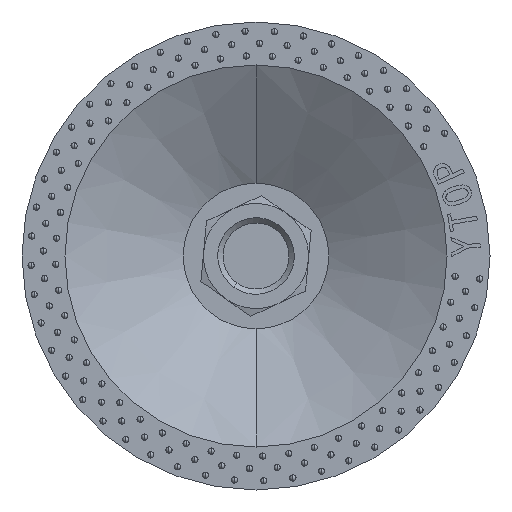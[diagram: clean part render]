
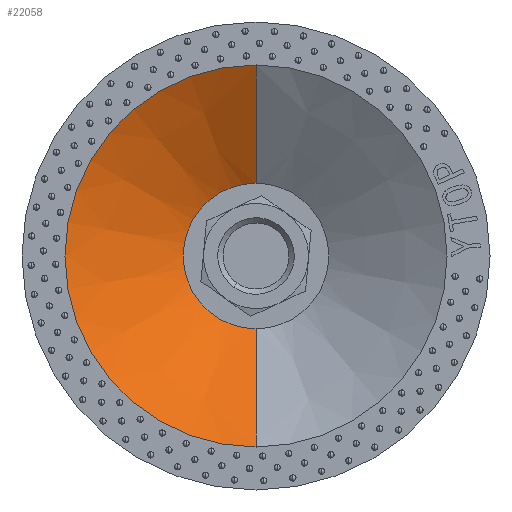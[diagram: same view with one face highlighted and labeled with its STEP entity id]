
A CAD part, front view. The second image highlights one B-rep face of the part: STEP entity #22058.
In plain terms, the highlighted conical face has half-angle 58.836 degrees and reference radius 40 mm.
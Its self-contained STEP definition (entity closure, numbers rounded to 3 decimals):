
#350 = CIRCLE ( 'NONE', #5333, 15.25 ) ;
#1332 = DIRECTION ( 'NONE',  ( 0., 1., 0. ) ) ;
#1570 = ORIENTED_EDGE ( 'NONE', *, *, #19262, .F. ) ;
#1669 = CARTESIAN_POINT ( 'NONE',  ( 0., 19.9, 0. ) ) ;
#1881 = EDGE_CURVE ( 'NONE', #16415, #13727, #6994, .T. ) ;
#2330 = DIRECTION ( 'NONE',  ( 0., 0., -1. ) ) ;
#2431 = EDGE_LOOP ( 'NONE', ( #19490, #5689, #1570, #21480 ) ) ;
#2939 = AXIS2_PLACEMENT_3D ( 'NONE', #9269, #5567, #3563 ) ;
#3362 = CONICAL_SURFACE ( 'NONE', #4077, 40., 1.027 ) ;
#3563 = DIRECTION ( 'NONE',  ( 0., 0., 1. ) ) ;
#4077 = AXIS2_PLACEMENT_3D ( 'NONE', #17696, #21758, #2330 ) ;
#4530 = FACE_OUTER_BOUND ( 'NONE', #2431, .T. ) ;
#5333 = AXIS2_PLACEMENT_3D ( 'NONE', #1669, #1332, #15105 ) ;
#5567 = DIRECTION ( 'NONE',  ( 0., 1., 0. ) ) ;
#5578 = CARTESIAN_POINT ( 'NONE',  ( 0., 4.932, -40. ) ) ;
#5689 = ORIENTED_EDGE ( 'NONE', *, *, #9127, .T. ) ;
#6129 = CIRCLE ( 'NONE', #2939, 40. ) ;
#6986 = DIRECTION ( 'NONE',  ( 0., -0.517, -0.856 ) ) ;
#6994 = LINE ( 'NONE', #12864, #23249 ) ;
#7666 = EDGE_CURVE ( 'NONE', #16415, #23216, #350, .T. ) ;
#8276 = DIRECTION ( 'NONE',  ( 0., -0.517, 0.856 ) ) ;
#8628 = CARTESIAN_POINT ( 'NONE',  ( 0., 19.9, -15.25 ) ) ;
#9127 = EDGE_CURVE ( 'NONE', #23216, #12752, #18985, .T. ) ;
#9269 = CARTESIAN_POINT ( 'NONE',  ( 0., 4.932, 0. ) ) ;
#12752 = VERTEX_POINT ( 'NONE', #13278 ) ;
#12864 = CARTESIAN_POINT ( 'NONE',  ( 0., 4.932, -40. ) ) ;
#13262 = VECTOR ( 'NONE', #8276, 1000. ) ;
#13278 = CARTESIAN_POINT ( 'NONE',  ( 0., 4.932, 40. ) ) ;
#13727 = VERTEX_POINT ( 'NONE', #5578 ) ;
#15105 = DIRECTION ( 'NONE',  ( 0., 0., 1. ) ) ;
#15443 = CARTESIAN_POINT ( 'NONE',  ( 0., 19.9, 15.25 ) ) ;
#16415 = VERTEX_POINT ( 'NONE', #8628 ) ;
#17696 = CARTESIAN_POINT ( 'NONE',  ( 0., 4.932, 0. ) ) ;
#18985 = LINE ( 'NONE', #23954, #13262 ) ;
#19262 = EDGE_CURVE ( 'NONE', #13727, #12752, #6129, .T. ) ;
#19490 = ORIENTED_EDGE ( 'NONE', *, *, #7666, .T. ) ;
#21480 = ORIENTED_EDGE ( 'NONE', *, *, #1881, .F. ) ;
#21758 = DIRECTION ( 'NONE',  ( 0., -1., 0. ) ) ;
#22058 = ADVANCED_FACE ( 'NONE', ( #4530 ), #3362, .F. ) ;
#23216 = VERTEX_POINT ( 'NONE', #15443 ) ;
#23249 = VECTOR ( 'NONE', #6986, 1000. ) ;
#23954 = CARTESIAN_POINT ( 'NONE',  ( 0., 4.932, 40. ) ) ;
